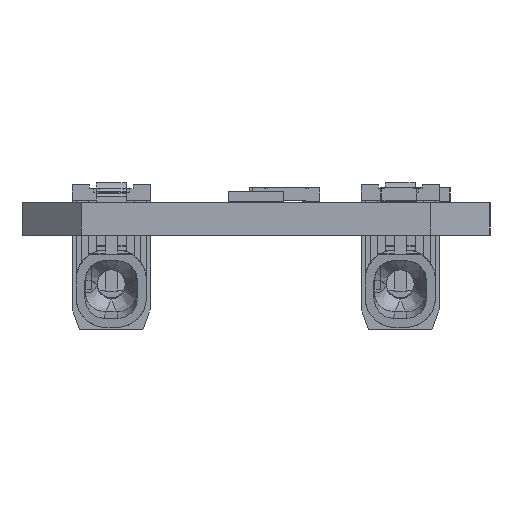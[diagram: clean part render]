
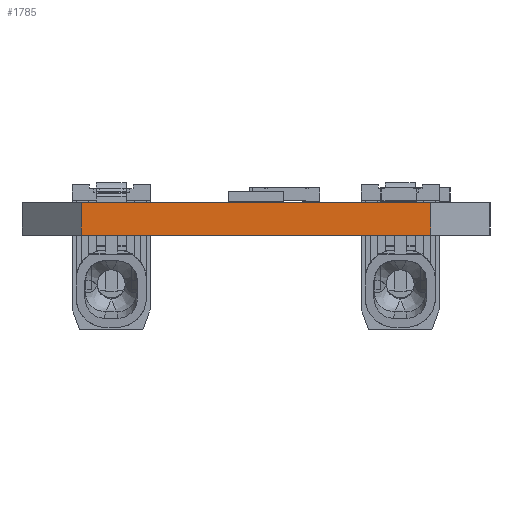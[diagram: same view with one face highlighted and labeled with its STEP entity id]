
A CAD part, left-side view. The second image highlights one B-rep face of the part: STEP entity #1785.
In plain terms, the highlighted planar face has unit normal (-1, 0, 0).
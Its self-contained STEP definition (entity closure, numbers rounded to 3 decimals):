
#103=DIRECTION('',(0.,1.,0.));
#104=VECTOR('',#103,17.6);
#105=CARTESIAN_POINT('',(-279.5,-8.8,0.));
#106=LINE('',#105,#104);
#432=DIRECTION('',(0.,0.,1.));
#433=VECTOR('',#432,1.65);
#434=CARTESIAN_POINT('',(-279.5,-8.8,0.));
#435=LINE('',#434,#433);
#436=DIRECTION('',(0.,1.,0.));
#437=VECTOR('',#436,17.6);
#438=CARTESIAN_POINT('',(-279.5,-8.8,1.65));
#439=LINE('',#438,#437);
#440=DIRECTION('',(0.,0.,1.));
#441=VECTOR('',#440,1.65);
#442=CARTESIAN_POINT('',(-279.5,8.8,0.));
#443=LINE('',#442,#441);
#1103=CARTESIAN_POINT('',(-279.5,-8.8,0.));
#1105=VERTEX_POINT('',#1103);
#1290=CARTESIAN_POINT('',(-279.5,-8.8,1.65));
#1292=VERTEX_POINT('',#1290);
#1324=CARTESIAN_POINT('',(-279.5,8.8,0.));
#1325=VERTEX_POINT('',#1324);
#1380=CARTESIAN_POINT('',(-279.5,8.8,1.65));
#1381=VERTEX_POINT('',#1380);
#1772=CARTESIAN_POINT('',(-279.5,8.8,1.65));
#1773=DIRECTION('',(-1.,0.,0.));
#1774=DIRECTION('',(0.,0.,1.));
#1775=AXIS2_PLACEMENT_3D('',#1772,#1773,#1774);
#1776=PLANE('',#1775);
#1777=ORIENTED_EDGE('',*,*,#1765,.F.);
#1778=ORIENTED_EDGE('',*,*,#1470,.T.);
#1780=ORIENTED_EDGE('',*,*,#1779,.T.);
#1782=ORIENTED_EDGE('',*,*,#1781,.F.);
#1783=EDGE_LOOP('',(#1777,#1778,#1780,#1782));
#1784=FACE_OUTER_BOUND('',#1783,.F.);
#1785=ADVANCED_FACE('',(#1784),#1776,.T.);
#1470=EDGE_CURVE('',#1105,#1325,#106,.T.);
#1765=EDGE_CURVE('',#1105,#1292,#435,.T.);
#1779=EDGE_CURVE('',#1325,#1381,#443,.T.);
#1781=EDGE_CURVE('',#1292,#1381,#439,.T.);
